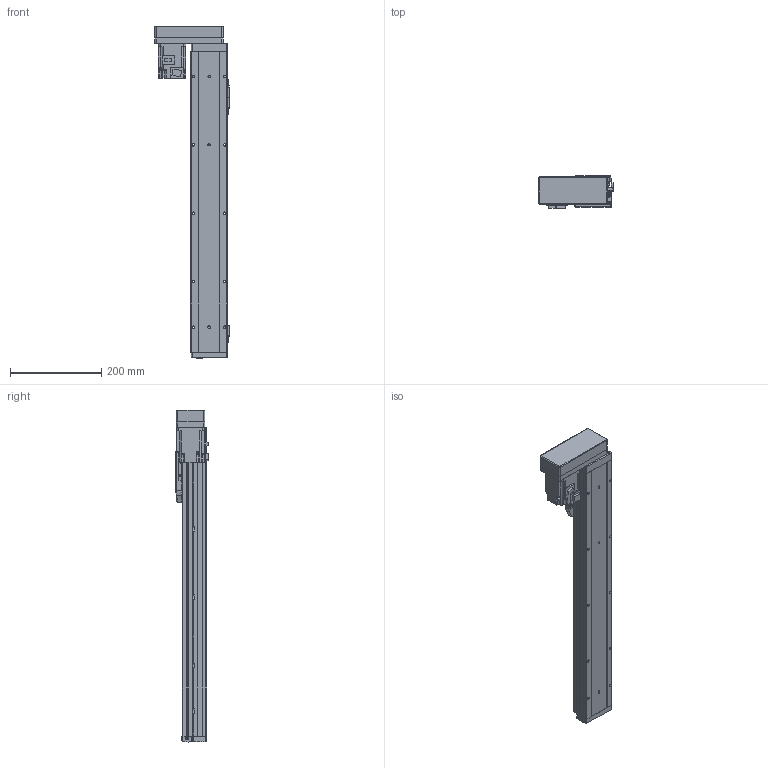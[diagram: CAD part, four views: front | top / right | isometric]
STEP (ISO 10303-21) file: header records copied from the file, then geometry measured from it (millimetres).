
FILE_DESCRIPTION (( 'STEP AP214' ), '1' );
FILE_NAME ('GSH8-500-BR-M20-1.step', '2025-01-07T06:10:32', ( '' ), ( '' ), 'SwSTEP 2.0', 'SolidWorks 2012', '' );
FILE_SCHEMA (( 'AUTOMOTIVE_DESIGN' ));
Length unit declared in the file: millimetre
Products named in the file (5): GSH8-BL-008; GSH8-BL-011-500-M20; GSH8-GY-004; HG-KR23_200W_Motor; GSH8-500-BR-M20-1
Assembly tree (4 placements, depth 2):
  GSH8-500-BR-M20-1
    GSH8-BL-011-500-M20
    GSH8-GY-004
    GSH8-BL-008
    HG-KR23_200W_Motor
Bounding box: 163 x 71.3 x 728.2 mm (x, y, z)
Volume: 1938865.1 mm3; surface area: 465629.6 mm2
Topology: 4 solids, 8 shells, 1112 faces, 2912 edges, 1873 vertices
Faces by surface type: plane 630, cylinder 386, torus 42, cone 26, bspline 24, sphere 4
Entity records: 43544 total; most frequent: CARTESIAN_POINT 9846, DIRECTION 5912, ORIENTED_EDGE 5808, EDGE_CURVE 2904, AXIS2_PLACEMENT_3D 1991, LINE 1930, VECTOR 1930, VERTEX_POINT 1869
